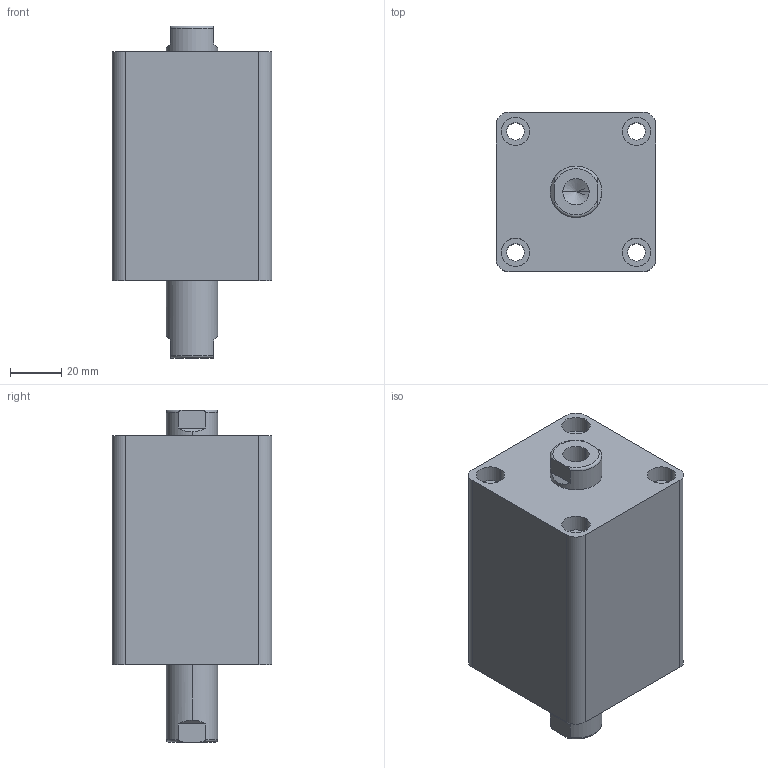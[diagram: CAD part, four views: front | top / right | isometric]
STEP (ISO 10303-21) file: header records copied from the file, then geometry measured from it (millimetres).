
FILE_DESCRIPTION (( 'STEP AP203' ), '1' );
FILE_NAME ('HTB-SW32-20N.STEP', '2019-10-07T08:51:00', ( '微软用户' ), ( '微软中国' ), 'SwSTEP 2.0', 'SolidWorks 2012', '' );
FILE_SCHEMA (( 'CONFIG_CONTROL_DESIGN' ));
Length unit declared in the file: millimetre
Products named in the file (3): HTB-SW32-20N; HTB-SW32-20N活塞杆; HTB-SW32-20掛极
Assembly tree (2 placements, depth 2):
  HTB-SW32-20N
    HTB-SW32-20掛极
    HTB-SW32-20N活塞杆
Bounding box: 62 x 62 x 129 mm (x, y, z)
Volume: 321832.6 mm3; surface area: 56277.2 mm2
Topology: 2 solids, 2 shells, 100 faces, 228 edges, 146 vertices
Faces by surface type: cylinder 48, plane 32, torus 12, cone 8
Entity records: 3237 total; most frequent: CARTESIAN_POINT 595, DIRECTION 542, ORIENTED_EDGE 448, AXIS2_PLACEMENT_3D 229, EDGE_CURVE 224, VERTEX_POINT 146, EDGE_LOOP 128, CIRCLE 124
